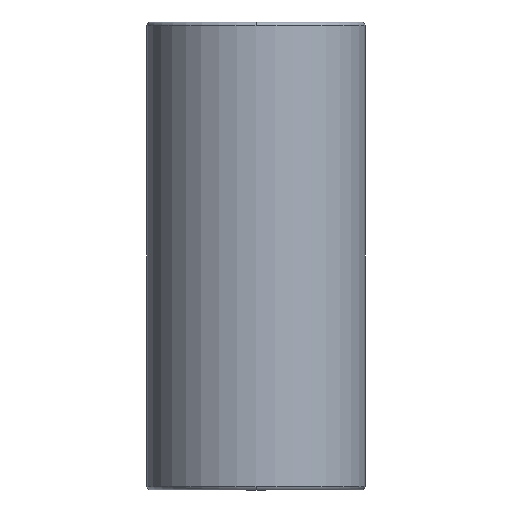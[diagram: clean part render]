
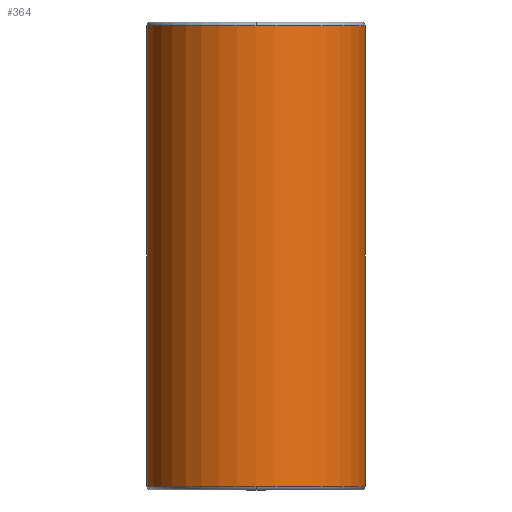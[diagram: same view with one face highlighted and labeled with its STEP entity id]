
A CAD part, front view. The second image highlights one B-rep face of the part: STEP entity #364.
In plain terms, the highlighted cylindrical face has radius 55.992 mm (diameter 111.984 mm), a partial arc.
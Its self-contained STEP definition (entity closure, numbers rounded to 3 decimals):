
#269=CARTESIAN_POINT('',(0.0,-55.992,238.0));
#270=VERTEX_POINT('',#269);
#296=CARTESIAN_POINT('',(-55.992,0.,238.0));
#297=VERTEX_POINT('',#296);
#305=CARTESIAN_POINT('',(0.0,0.,238.0));
#306=DIRECTION('',(0.0,0.0,1.0));
#307=DIRECTION('',(1.0,0.0,0.0));
#308=AXIS2_PLACEMENT_3D('',#305,#306,#307);
#309=CIRCLE('',#308,55.992);
#310=EDGE_CURVE('',#297,#270,#309,.T.);
#315=CARTESIAN_POINT('',(0.0,0.,120.0));
#316=DIRECTION('',(0.0,0.,1.0));
#317=DIRECTION('',(1.0,0.0,0.0));
#318=AXIS2_PLACEMENT_3D('',#315,#316,#317);
#319=CYLINDRICAL_SURFACE('',#318,55.992);
#320=CARTESIAN_POINT('',(55.992,0.,238.0));
#321=VERTEX_POINT('',#320);
#322=CARTESIAN_POINT('',(55.992,0.,2.));
#323=VERTEX_POINT('',#322);
#324=CARTESIAN_POINT('',(55.992,0.,238.0));
#325=DIRECTION('',(0.0,0.0,-1.0));
#326=VECTOR('',#325,236.0);
#327=LINE('',#324,#326);
#328=EDGE_CURVE('',#321,#323,#327,.T.);
#329=ORIENTED_EDGE('',*,*,#328,.F.);
#330=CARTESIAN_POINT('',(0.0,0.,238.0));
#331=DIRECTION('',(0.0,0.0,1.0));
#332=DIRECTION('',(1.0,0.0,0.0));
#333=AXIS2_PLACEMENT_3D('',#330,#331,#332);
#334=CIRCLE('',#333,55.992);
#335=EDGE_CURVE('',#270,#321,#334,.T.);
#336=ORIENTED_EDGE('',*,*,#335,.F.);
#337=ORIENTED_EDGE('',*,*,#310,.F.);
#338=CARTESIAN_POINT('',(-55.992,0.,2.0));
#339=VERTEX_POINT('',#338);
#340=CARTESIAN_POINT('',(-55.992,0.,238.0));
#341=DIRECTION('',(0.0,0.0,-1.0));
#342=VECTOR('',#341,236.0);
#343=LINE('',#340,#342);
#344=EDGE_CURVE('',#297,#339,#343,.T.);
#345=ORIENTED_EDGE('',*,*,#344,.T.);
#346=CARTESIAN_POINT('',(0.0,-55.992,2.));
#347=VERTEX_POINT('',#346);
#348=CARTESIAN_POINT('',(0.0,0.,2.0));
#349=DIRECTION('',(0.0,0.0,1.0));
#350=DIRECTION('',(1.0,0.0,0.0));
#351=AXIS2_PLACEMENT_3D('',#348,#349,#350);
#352=CIRCLE('',#351,55.992);
#353=EDGE_CURVE('',#339,#347,#352,.T.);
#354=ORIENTED_EDGE('',*,*,#353,.T.);
#355=CARTESIAN_POINT('',(0.0,0.,2.0));
#356=DIRECTION('',(0.0,0.0,1.0));
#357=DIRECTION('',(1.0,0.0,0.0));
#358=AXIS2_PLACEMENT_3D('',#355,#356,#357);
#359=CIRCLE('',#358,55.992);
#360=EDGE_CURVE('',#347,#323,#359,.T.);
#361=ORIENTED_EDGE('',*,*,#360,.T.);
#362=EDGE_LOOP('',(#329,#336,#337,#345,#354,#361));
#363=FACE_OUTER_BOUND('',#362,.T.);
#364=ADVANCED_FACE('',(#363),#319,.T.);
